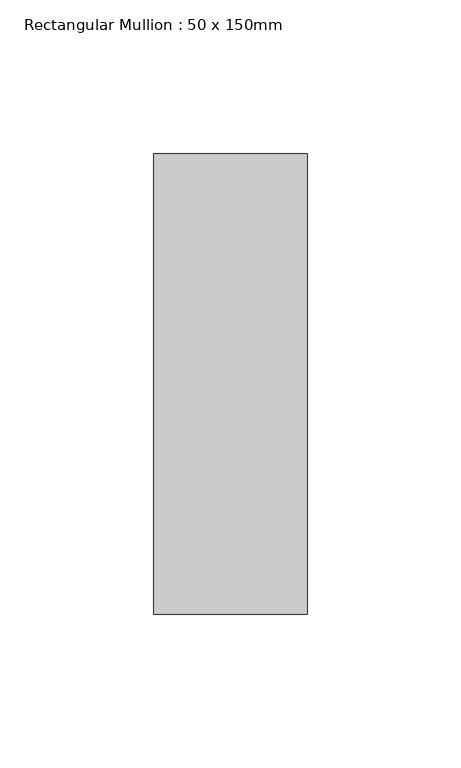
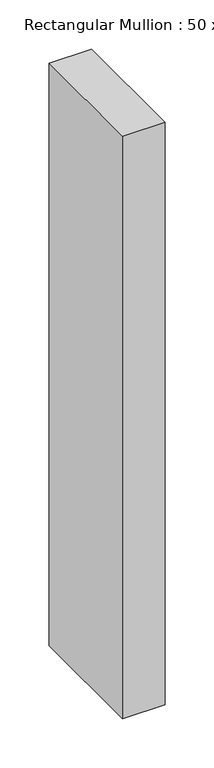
"""IFC4 building model written with IfcOpenShell, lengths in millimetres: member geometry, Rectangular Mullion : 50 x 150mm."""

from ifc_helpers import new_model, si_unit, frame, origin, place, context, project, spatial, polyline, outline, extrude, source, transform, mapped, element, save


def rectangular_mullion_50_x_150mm_fef40266(model_context):
    return source(origin(), model_context, "Body", "SweptSolid", [
        extrude(outline(polyline([(0.0, 75.0), (0.0, -75.0), (-50.0, -75.0), (-50.0, 75.0), (0.0, 75.0)])), frame((0.0, 0.0, -725.0000002), z_axis=(0.0, 0.0, 1.0), x_axis=(1.0, 0.0, 0.0)), (0.0, 0.0, 1.0), 725.0000002),
    ])


if __name__ == "__main__":
    model = new_model("IFC4")
    model_context = context("Model", 3, world=origin())
    ifc_project = project(units=[si_unit("LENGTHUNIT", "METRE", prefix="MILLI")], contexts=[model_context])
    site = spatial("IfcSite", under=ifc_project)
    building = spatial("IfcBuilding", under=site)
    placement = place(None, origin())
    rectangular_mullion_50_x_150mm_shape = rectangular_mullion_50_x_150mm_fef40266(model_context)
    element("IfcMember", 1, ObjectType="Rectangular Mullion : 50 x 150mm", at=placement, inside=building, context=model_context, shape_type="MappedRepresentation", body=[
        mapped(rectangular_mullion_50_x_150mm_shape, transform((0.0, 0.0, 0.0), x_axis=(1.0, 0.0, 0.0), y_axis=(0.0, 1.0, 0.0), z_axis=(0.0, 0.0, 1.0))),
    ])
    save(model, "model.ifc")
